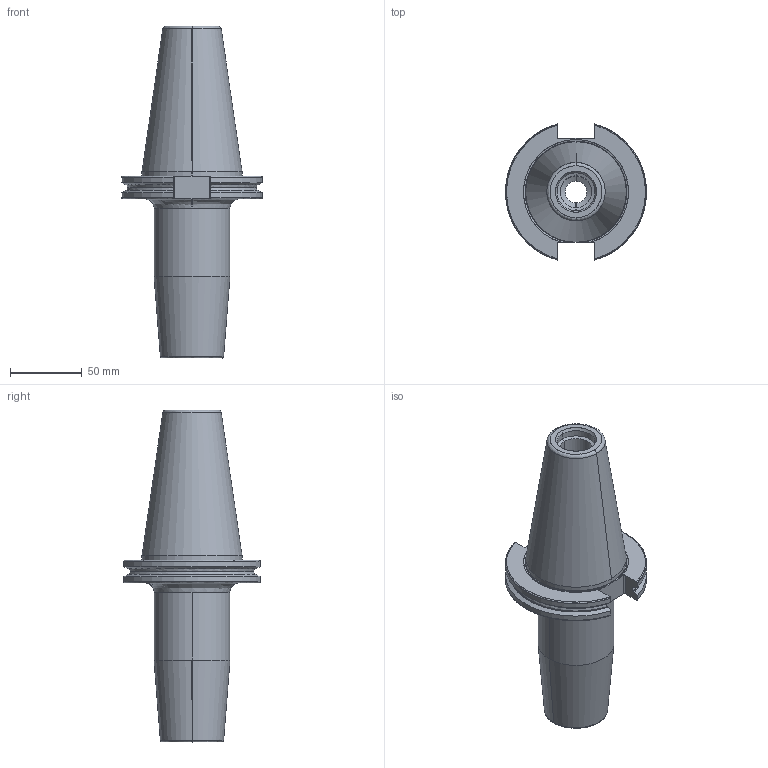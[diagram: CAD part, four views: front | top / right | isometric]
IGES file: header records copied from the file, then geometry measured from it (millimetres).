
Start section: SolidWorks IGES file using analytic representation for surfaces
Global section: file name: C:\Working Directory\Web Models\C6N4-0032\C6N4-0032.IGS; native system: SolidWorks 2020; preprocessor: SolidWorks 2020; author: kthao; date: 200116.113033; units: inch
Bounding box: 98.42 x 94.95 x 231.6 mm (x, y, z)
Surface area: 69031.7 mm2 (no closed solid volume)
Topology: 0 solids, 0 shells, 93 faces, 1467 edges, 1465 vertices
Faces by surface type: revolution 53, bspline 40
